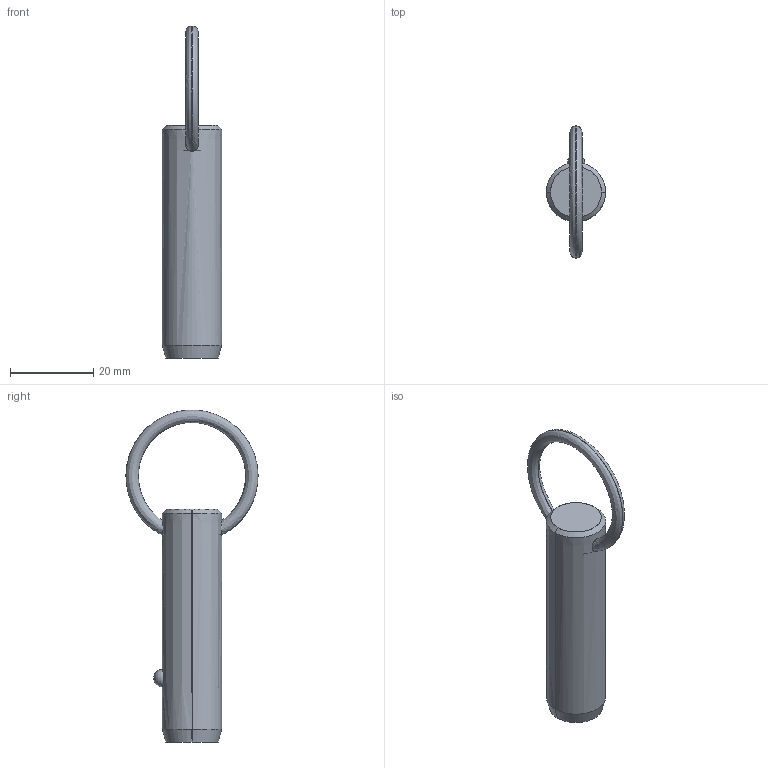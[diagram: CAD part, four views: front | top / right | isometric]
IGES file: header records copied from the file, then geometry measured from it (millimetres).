
Start section: SolidWorks IGES file using analytic representation for surfaces
Global section: file name: C:\Users\liam_\OneDrive\Documents\WORK\Work for WixRoyd\Job Files\J-00019 - Matt Davis CAD Checking\04. CAD Drawings\automotion20190605\P1250.2_v2\P1250.2_v2_20190729_IGES\P1250.056-120.igs; native system: SolidWorks 2017; preprocessor: SolidWorks 2017; author: liam_; date: 190729.231522; units: millimetre
Bounding box: 14.2 x 31.7 x 79.6 mm (x, y, z)
Surface area: 3455.1 mm2 (no closed solid volume)
Topology: 0 solids, 0 shells, 12 faces, 285 edges, 283 vertices
Faces by surface type: revolution 8, bspline 4
